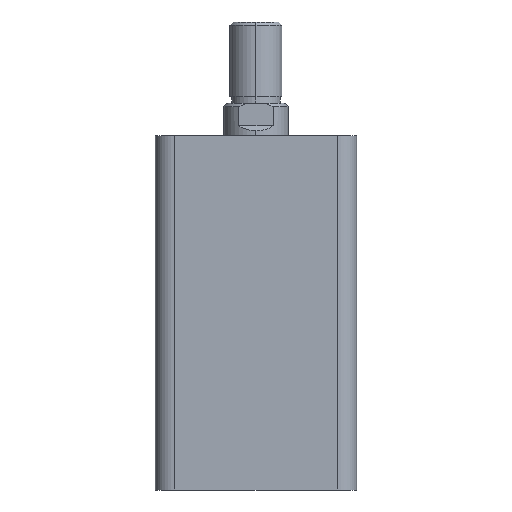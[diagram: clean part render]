
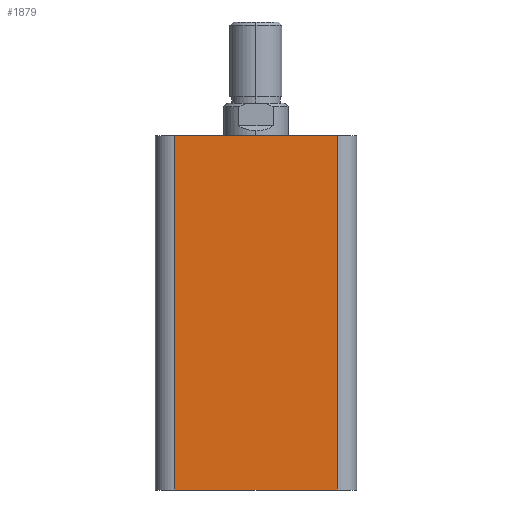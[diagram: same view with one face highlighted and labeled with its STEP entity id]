
A CAD part, left-side view. The second image highlights one B-rep face of the part: STEP entity #1879.
In plain terms, the highlighted planar face has unit normal (-1, 0, 0).
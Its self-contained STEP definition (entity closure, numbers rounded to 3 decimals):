
#633 = CARTESIAN_POINT ( 'NONE',  ( -31., 31., 109. ) ) ;
#634 = DIRECTION ( 'NONE',  ( 0., -1., 0. ) ) ;
#641 = CARTESIAN_POINT ( 'NONE',  ( -31., -25., 109. ) ) ;
#642 = DIRECTION ( 'NONE',  ( 0., 0., 1. ) ) ;
#646 = DIRECTION ( 'NONE',  ( 0., 0., -1. ) ) ;
#650 = CARTESIAN_POINT ( 'NONE',  ( -31., 25., 109. ) ) ;
#1179 = DIRECTION ( 'NONE',  ( 0., 0., -1. ) ) ;
#1180 = DIRECTION ( 'NONE',  ( 1., 0., 0. ) ) ;
#1184 = PLANE ( 'NONE',  #2091 ) ;
#1194 = CARTESIAN_POINT ( 'NONE',  ( -31., 31., 109. ) ) ;
#1313 = CARTESIAN_POINT ( 'NONE',  ( -31., -25., 0. ) ) ;
#1433 = CARTESIAN_POINT ( 'NONE',  ( -31., 25., 109. ) ) ;
#1443 = CARTESIAN_POINT ( 'NONE',  ( -31., 25., 0. ) ) ;
#1455 = CARTESIAN_POINT ( 'NONE',  ( -31., -25., 109. ) ) ;
#1603 = DIRECTION ( 'NONE',  ( 0., -1., 0. ) ) ;
#1609 = CARTESIAN_POINT ( 'NONE',  ( -31., 31., 0. ) ) ;
#1879 = ADVANCED_FACE ( 'NONE', ( #5189 ), #1184, .F. ) ;
#2091 = AXIS2_PLACEMENT_3D ( 'NONE', #1194, #1180, #1179 ) ;
#2367 = EDGE_CURVE ( 'NONE', #3594, #3616, #4213, .T. ) ;
#2370 = EDGE_CURVE ( 'NONE', #3473, #3616, #4217, .T. ) ;
#2372 = EDGE_CURVE ( 'NONE', #3594, #3604, #4220, .T. ) ;
#3054 = EDGE_LOOP ( 'NONE', ( #4016, #4018, #4014, #4015 ) ) ;
#3473 = VERTEX_POINT ( 'NONE', #1313 ) ;
#3594 = VERTEX_POINT ( 'NONE', #1433 ) ;
#3604 = VERTEX_POINT ( 'NONE', #1443 ) ;
#3616 = VERTEX_POINT ( 'NONE', #1455 ) ;
#3659 = EDGE_CURVE ( 'NONE', #3604, #3473, #4518, .T. ) ;
#4014 = ORIENTED_EDGE ( 'NONE', *, *, #2367, .F. ) ;
#4015 = ORIENTED_EDGE ( 'NONE', *, *, #2372, .T. ) ;
#4016 = ORIENTED_EDGE ( 'NONE', *, *, #3659, .T. ) ;
#4018 = ORIENTED_EDGE ( 'NONE', *, *, #2370, .T. ) ;
#4213 = LINE ( 'NONE', #633, #4215 ) ;
#4215 = VECTOR ( 'NONE', #634, 1000. ) ;
#4217 = LINE ( 'NONE', #641, #4219 ) ;
#4219 = VECTOR ( 'NONE', #642, 1000. ) ;
#4220 = LINE ( 'NONE', #650, #4222 ) ;
#4222 = VECTOR ( 'NONE', #646, 1000. ) ;
#4518 = LINE ( 'NONE', #1609, #4548 ) ;
#4548 = VECTOR ( 'NONE', #1603, 1000. ) ;
#5189 = FACE_OUTER_BOUND ( 'NONE', #3054, .T. ) ;
